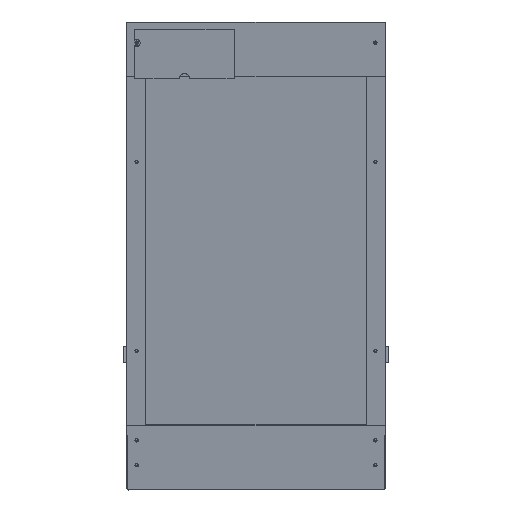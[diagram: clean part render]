
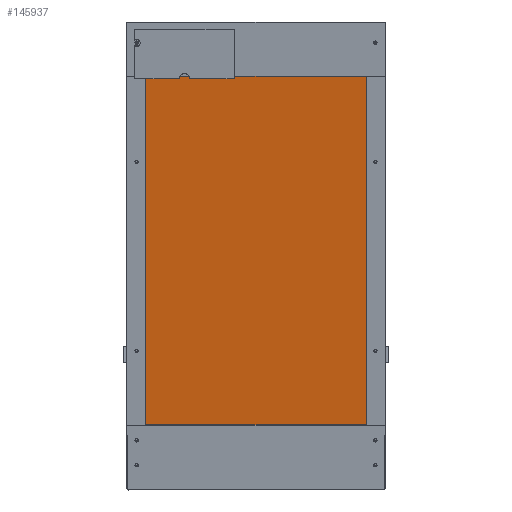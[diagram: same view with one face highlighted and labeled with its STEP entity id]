
A CAD part, top view. The second image highlights one B-rep face of the part: STEP entity #145937.
In plain terms, the highlighted planar face has unit normal (0, -0.174, 0.985).
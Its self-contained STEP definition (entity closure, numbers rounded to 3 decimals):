
#145768 = PLANE('',#145769);
#145769 = AXIS2_PLACEMENT_3D('',#145770,#145771,#145772);
#145770 = CARTESIAN_POINT('',(18.1,64.,86.285));
#145771 = DIRECTION('',(-0.,1.,0.));
#145772 = DIRECTION('',(0.,0.,-1.));
#145796 = PLANE('',#145797);
#145797 = AXIS2_PLACEMENT_3D('',#145798,#145799,#145800);
#145798 = CARTESIAN_POINT('',(241.9,240.675,111.437));
#145799 = DIRECTION('',(1.,0.,0.));
#145800 = DIRECTION('',(-0.,0.,1.));
#145824 = PLANE('',#145825);
#145825 = AXIS2_PLACEMENT_3D('',#145826,#145827,#145828);
#145826 = CARTESIAN_POINT('',(18.1,417.349,136.59));
#145827 = DIRECTION('',(0.,-1.,0.));
#145828 = DIRECTION('',(0.,0.,1.));
#145850 = PLANE('',#145851);
#145851 = AXIS2_PLACEMENT_3D('',#145852,#145853,#145854);
#145852 = CARTESIAN_POINT('',(18.1,240.675,111.437));
#145853 = DIRECTION('',(1.,0.,0.));
#145854 = DIRECTION('',(-0.,0.,1.));
#145867 = VERTEX_POINT('',#145868);
#145868 = CARTESIAN_POINT('',(241.9,417.349,148.59));
#145889 = EDGE_CURVE('',#145890,#145867,#145892,.T.);
#145890 = VERTEX_POINT('',#145891);
#145891 = CARTESIAN_POINT('',(18.1,417.349,148.59));
#145892 = SURFACE_CURVE('',#145893,(#145897,#145904),.PCURVE_S1.);
#145893 = LINE('',#145894,#145895);
#145894 = CARTESIAN_POINT('',(18.1,417.349,148.59));
#145895 = VECTOR('',#145896,1.);
#145896 = DIRECTION('',(1.,0.,0.));
#145897 = PCURVE('',#145824,#145898);
#145898 = DEFINITIONAL_REPRESENTATION('',(#145899),#145903);
#145899 = LINE('',#145900,#145901);
#145900 = CARTESIAN_POINT('',(12.,0.));
#145901 = VECTOR('',#145902,1.);
#145902 = DIRECTION('',(0.,-1.));
#145903 = ( GEOMETRIC_REPRESENTATION_CONTEXT(2) 
PARAMETRIC_REPRESENTATION_CONTEXT() REPRESENTATION_CONTEXT('2D SPACE',''
  ) );
#145904 = PCURVE('',#145905,#145910);
#145905 = PLANE('',#145906);
#145906 = AXIS2_PLACEMENT_3D('',#145907,#145908,#145909);
#145907 = CARTESIAN_POINT('',(18.1,417.349,148.59));
#145908 = DIRECTION('',(0.,0.174,-0.985));
#145909 = DIRECTION('',(0.,-0.985,-0.174));
#145910 = DEFINITIONAL_REPRESENTATION('',(#145911),#145915);
#145911 = LINE('',#145912,#145913);
#145912 = CARTESIAN_POINT('',(0.,0.));
#145913 = VECTOR('',#145914,1.);
#145914 = DIRECTION('',(0.,-1.));
#145915 = ( GEOMETRIC_REPRESENTATION_CONTEXT(2) 
PARAMETRIC_REPRESENTATION_CONTEXT() REPRESENTATION_CONTEXT('2D SPACE',''
  ) );
#145937 = ADVANCED_FACE('',(#145938),#145905,.F.);
#145938 = FACE_BOUND('',#145939,.F.);
#145939 = EDGE_LOOP('',(#145940,#145941,#145964,#145987));
#145940 = ORIENTED_EDGE('',*,*,#145889,.T.);
#145941 = ORIENTED_EDGE('',*,*,#145942,.T.);
#145942 = EDGE_CURVE('',#145867,#145943,#145945,.T.);
#145943 = VERTEX_POINT('',#145944);
#145944 = CARTESIAN_POINT('',(241.9,64.,86.285));
#145945 = SURFACE_CURVE('',#145946,(#145950,#145957),.PCURVE_S1.);
#145946 = LINE('',#145947,#145948);
#145947 = CARTESIAN_POINT('',(241.9,417.349,148.59));
#145948 = VECTOR('',#145949,1.);
#145949 = DIRECTION('',(0.,-0.985,-0.174));
#145950 = PCURVE('',#145905,#145951);
#145951 = DEFINITIONAL_REPRESENTATION('',(#145952),#145956);
#145952 = LINE('',#145953,#145954);
#145953 = CARTESIAN_POINT('',(0.,-223.8));
#145954 = VECTOR('',#145955,1.);
#145955 = DIRECTION('',(1.,0.));
#145956 = ( GEOMETRIC_REPRESENTATION_CONTEXT(2) 
PARAMETRIC_REPRESENTATION_CONTEXT() REPRESENTATION_CONTEXT('2D SPACE',''
  ) );
#145957 = PCURVE('',#145796,#145958);
#145958 = DEFINITIONAL_REPRESENTATION('',(#145959),#145963);
#145959 = LINE('',#145960,#145961);
#145960 = CARTESIAN_POINT('',(37.152,-176.675));
#145961 = VECTOR('',#145962,1.);
#145962 = DIRECTION('',(-0.174,0.985));
#145963 = ( GEOMETRIC_REPRESENTATION_CONTEXT(2) 
PARAMETRIC_REPRESENTATION_CONTEXT() REPRESENTATION_CONTEXT('2D SPACE',''
  ) );
#145964 = ORIENTED_EDGE('',*,*,#145965,.F.);
#145965 = EDGE_CURVE('',#145966,#145943,#145968,.T.);
#145966 = VERTEX_POINT('',#145967);
#145967 = CARTESIAN_POINT('',(18.1,64.,86.285));
#145968 = SURFACE_CURVE('',#145969,(#145973,#145980),.PCURVE_S1.);
#145969 = LINE('',#145970,#145971);
#145970 = CARTESIAN_POINT('',(18.1,64.,86.285));
#145971 = VECTOR('',#145972,1.);
#145972 = DIRECTION('',(1.,0.,0.));
#145973 = PCURVE('',#145905,#145974);
#145974 = DEFINITIONAL_REPRESENTATION('',(#145975),#145979);
#145975 = LINE('',#145976,#145977);
#145976 = CARTESIAN_POINT('',(358.8,0.));
#145977 = VECTOR('',#145978,1.);
#145978 = DIRECTION('',(0.,-1.));
#145979 = ( GEOMETRIC_REPRESENTATION_CONTEXT(2) 
PARAMETRIC_REPRESENTATION_CONTEXT() REPRESENTATION_CONTEXT('2D SPACE',''
  ) );
#145980 = PCURVE('',#145768,#145981);
#145981 = DEFINITIONAL_REPRESENTATION('',(#145982),#145986);
#145982 = LINE('',#145983,#145984);
#145983 = CARTESIAN_POINT('',(0.,0.));
#145984 = VECTOR('',#145985,1.);
#145985 = DIRECTION('',(0.,-1.));
#145986 = ( GEOMETRIC_REPRESENTATION_CONTEXT(2) 
PARAMETRIC_REPRESENTATION_CONTEXT() REPRESENTATION_CONTEXT('2D SPACE',''
  ) );
#145987 = ORIENTED_EDGE('',*,*,#145988,.F.);
#145988 = EDGE_CURVE('',#145890,#145966,#145989,.T.);
#145989 = SURFACE_CURVE('',#145990,(#145994,#146001),.PCURVE_S1.);
#145990 = LINE('',#145991,#145992);
#145991 = CARTESIAN_POINT('',(18.1,417.349,148.59));
#145992 = VECTOR('',#145993,1.);
#145993 = DIRECTION('',(0.,-0.985,-0.174));
#145994 = PCURVE('',#145905,#145995);
#145995 = DEFINITIONAL_REPRESENTATION('',(#145996),#146000);
#145996 = LINE('',#145997,#145998);
#145997 = CARTESIAN_POINT('',(0.,0.));
#145998 = VECTOR('',#145999,1.);
#145999 = DIRECTION('',(1.,0.));
#146000 = ( GEOMETRIC_REPRESENTATION_CONTEXT(2) 
PARAMETRIC_REPRESENTATION_CONTEXT() REPRESENTATION_CONTEXT('2D SPACE',''
  ) );
#146001 = PCURVE('',#145850,#146002);
#146002 = DEFINITIONAL_REPRESENTATION('',(#146003),#146007);
#146003 = LINE('',#146004,#146005);
#146004 = CARTESIAN_POINT('',(37.152,-176.675));
#146005 = VECTOR('',#146006,1.);
#146006 = DIRECTION('',(-0.174,0.985));
#146007 = ( GEOMETRIC_REPRESENTATION_CONTEXT(2) 
PARAMETRIC_REPRESENTATION_CONTEXT() REPRESENTATION_CONTEXT('2D SPACE',''
  ) );
